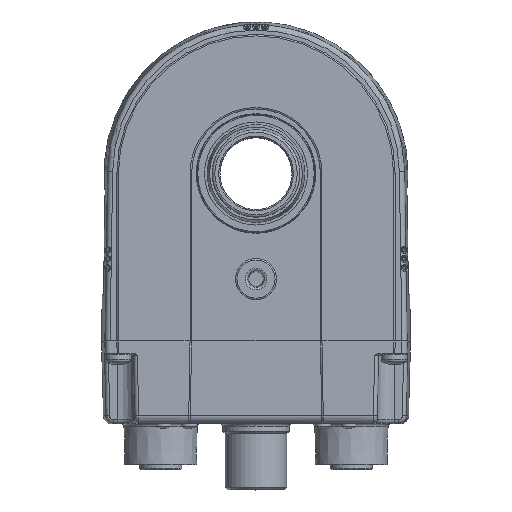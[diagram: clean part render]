
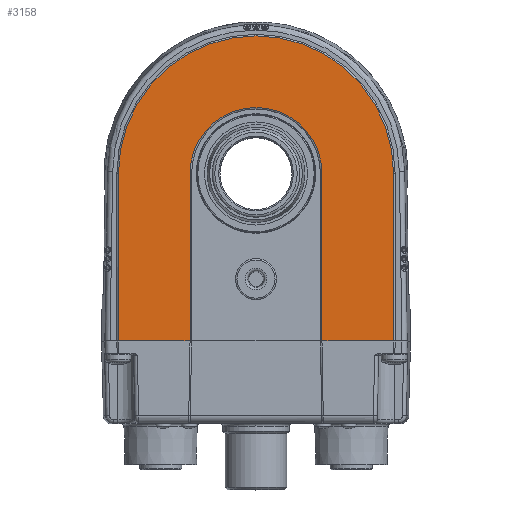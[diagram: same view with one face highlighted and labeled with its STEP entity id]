
A CAD part, top view. The second image highlights one B-rep face of the part: STEP entity #3158.
In plain terms, the highlighted planar face has unit normal (0, 0, 1).
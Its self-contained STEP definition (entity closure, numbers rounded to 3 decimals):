
#3158 = ADVANCED_FACE( '', ( #6802 ), #6803, .T. );
#6802 = FACE_OUTER_BOUND( '', #15852, .T. );
#6803 = PLANE( '', #15853 );
#15852 = EDGE_LOOP( '', ( #26076, #26077, #26078, #26079, #26080, #26081, #26082, #26083 ) );
#15853 = AXIS2_PLACEMENT_3D( '', #26084, #26085, #26086 );
#26076 = ORIENTED_EDGE( '', *, *, #29777, .T. );
#26077 = ORIENTED_EDGE( '', *, *, #30654, .T. );
#26078 = ORIENTED_EDGE( '', *, *, #31648, .T. );
#26079 = ORIENTED_EDGE( '', *, *, #29972, .T. );
#26080 = ORIENTED_EDGE( '', *, *, #32096, .T. );
#26081 = ORIENTED_EDGE( '', *, *, #31892, .T. );
#26082 = ORIENTED_EDGE( '', *, *, #32112, .T. );
#26083 = ORIENTED_EDGE( '', *, *, #29731, .T. );
#26084 = CARTESIAN_POINT( '', ( 0., 0., 50.4 ) );
#26085 = DIRECTION( '', ( 0., 0., 1. ) );
#26086 = DIRECTION( '', ( 1., 0., 0. ) );
#29731 = EDGE_CURVE( '', #34859, #34863, #34865, .T. );
#29777 = EDGE_CURVE( '', #34863, #34933, #34935, .T. );
#29972 = EDGE_CURVE( '', #35229, #35232, #35234, .T. );
#30654 = EDGE_CURVE( '', #34933, #35394, #36259, .T. );
#31648 = EDGE_CURVE( '', #35394, #35229, #37610, .T. );
#31892 = EDGE_CURVE( '', #37907, #37909, #37911, .T. );
#32096 = EDGE_CURVE( '', #35232, #37907, #38147, .T. );
#32112 = EDGE_CURVE( '', #37909, #34859, #38165, .T. );
#34859 = VERTEX_POINT( '', #42761 );
#34863 = VERTEX_POINT( '', #42775 );
#34865 = LINE( '', #42777, #42778 );
#34933 = VERTEX_POINT( '', #42873 );
#34935 = CIRCLE( '', #42875, 12.8 );
#35229 = VERTEX_POINT( '', #43767 );
#35232 = VERTEX_POINT( '', #43780 );
#35234 = LINE( '', #43782, #43783 );
#35394 = VERTEX_POINT( '', #44085 );
#36259 = LINE( '', #45800, #45801 );
#37610 = LINE( '', #48621, #48622 );
#37907 = VERTEX_POINT( '', #49346 );
#37909 = VERTEX_POINT( '', #49348 );
#37911 = LINE( '', #49359, #49360 );
#38147 = CIRCLE( '', #49749, 26.7 );
#38165 = LINE( '', #49774, #49775 );
#42761 = CARTESIAN_POINT( '', ( -12.8, -32.5, 50.4 ) );
#42775 = CARTESIAN_POINT( '', ( -12.8, 0., 50.4 ) );
#42777 = CARTESIAN_POINT( '', ( -12.8, 0., 50.4 ) );
#42778 = VECTOR( '', #52100, 1000. );
#42873 = CARTESIAN_POINT( '', ( 12.8, 0., 50.4 ) );
#42875 = AXIS2_PLACEMENT_3D( '', #52150, #52151, #52152 );
#43767 = CARTESIAN_POINT( '', ( 26.7, -32.5, 50.4 ) );
#43780 = CARTESIAN_POINT( '', ( 26.7, 0., 50.4 ) );
#43782 = CARTESIAN_POINT( '', ( 26.7, 0., 50.4 ) );
#43783 = VECTOR( '', #52377, 1000. );
#44085 = CARTESIAN_POINT( '', ( 12.8, -32.5, 50.4 ) );
#45800 = CARTESIAN_POINT( '', ( 12.8, -32.5, 50.4 ) );
#45801 = VECTOR( '', #53176, 1000. );
#48621 = CARTESIAN_POINT( '', ( 12.5, -32.5, 50.4 ) );
#48622 = VECTOR( '', #54241, 1000. );
#49346 = CARTESIAN_POINT( '', ( -26.7, 0., 50.4 ) );
#49348 = CARTESIAN_POINT( '', ( -26.7, -32.5, 50.4 ) );
#49359 = CARTESIAN_POINT( '', ( -26.7, -32.5, 50.4 ) );
#49360 = VECTOR( '', #54457, 1000. );
#49749 = AXIS2_PLACEMENT_3D( '', #54607, #54608, #54609 );
#49774 = CARTESIAN_POINT( '', ( -27., -32.5, 50.4 ) );
#49775 = VECTOR( '', #54620, 1000. );
#52100 = DIRECTION( '', ( 0., 1., 0. ) );
#52150 = CARTESIAN_POINT( '', ( 0., 0., 50.4 ) );
#52151 = DIRECTION( '', ( 0., 0., -1. ) );
#52152 = DIRECTION( '', ( 1., 0., 0. ) );
#52377 = DIRECTION( '', ( 0., 1., 0. ) );
#53176 = DIRECTION( '', ( 0., -1., 0. ) );
#54241 = DIRECTION( '', ( 1., 0., 0. ) );
#54457 = DIRECTION( '', ( 0., -1., 0. ) );
#54607 = CARTESIAN_POINT( '', ( 0., 0., 50.4 ) );
#54608 = DIRECTION( '', ( 0., 0., 1. ) );
#54609 = DIRECTION( '', ( 1., 0., 0. ) );
#54620 = DIRECTION( '', ( 1., 0., 0. ) );
